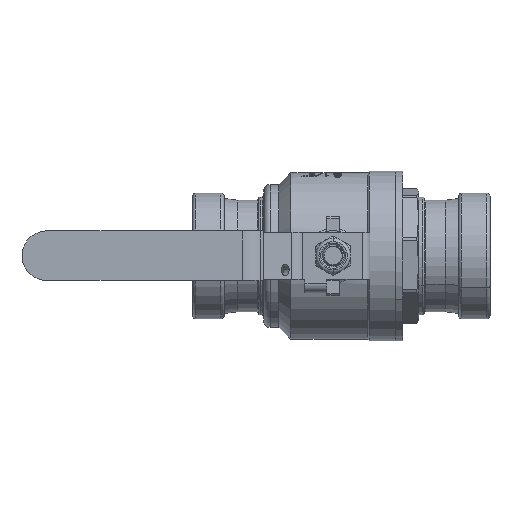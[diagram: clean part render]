
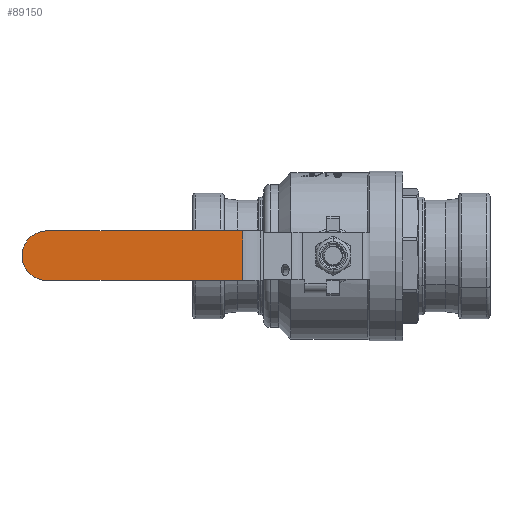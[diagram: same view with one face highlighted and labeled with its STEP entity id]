
A CAD part, top view. The second image highlights one B-rep face of the part: STEP entity #89150.
In plain terms, the highlighted planar face has unit normal (0, 0, 1).
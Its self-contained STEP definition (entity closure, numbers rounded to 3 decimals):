
#89150 = ADVANCED_FACE('',(#89151),#89166,.T.);
#89151 = FACE_BOUND('',#89152,.T.);
#89152 = EDGE_LOOP('',(#89153,#89189,#89218,#89246,#89274));
#89153 = ORIENTED_EDGE('',*,*,#89154,.T.);
#89154 = EDGE_CURVE('',#89155,#89157,#89159,.T.);
#89155 = VERTEX_POINT('',#89156);
#89156 = CARTESIAN_POINT('',(-182.5,-29.962,125.798));
#89157 = VERTEX_POINT('',#89158);
#89158 = CARTESIAN_POINT('',(-198.3,-45.762,125.798));
#89159 = SURFACE_CURVE('',#89160,(#89165,#89177),.PCURVE_S1.);
#89160 = CIRCLE('',#89161,15.8);
#89161 = AXIS2_PLACEMENT_3D('',#89162,#89163,#89164);
#89162 = CARTESIAN_POINT('',(-182.5,-45.762,125.798));
#89163 = DIRECTION('',(0.,0.,1.));
#89164 = DIRECTION('',(0.,1.,0.));
#89165 = PCURVE('',#89166,#89171);
#89166 = PLANE('',#89167);
#89167 = AXIS2_PLACEMENT_3D('',#89168,#89169,#89170);
#89168 = CARTESIAN_POINT('',(0.,-29.962,
    125.798));
#89169 = DIRECTION('',(0.,0.,1.));
#89170 = DIRECTION('',(0.,1.,0.));
#89171 = DEFINITIONAL_REPRESENTATION('',(#89172),#89176);
#89172 = CIRCLE('',#89173,15.8);
#89173 = AXIS2_PLACEMENT_2D('',#89174,#89175);
#89174 = CARTESIAN_POINT('',(-15.8,182.5));
#89175 = DIRECTION('',(1.,0.));
#89176 = ( GEOMETRIC_REPRESENTATION_CONTEXT(2) 
PARAMETRIC_REPRESENTATION_CONTEXT() REPRESENTATION_CONTEXT('2D SPACE',''
  ) );
#89177 = PCURVE('',#89178,#89183);
#89178 = CYLINDRICAL_SURFACE('',#89179,15.8);
#89179 = AXIS2_PLACEMENT_3D('',#89180,#89181,#89182);
#89180 = CARTESIAN_POINT('',(-182.5,-45.762,91.998));
#89181 = DIRECTION('',(0.,0.,-1.));
#89182 = DIRECTION('',(0.,-1.,0.));
#89183 = DEFINITIONAL_REPRESENTATION('',(#89184),#89188);
#89184 = LINE('',#89185,#89186);
#89185 = CARTESIAN_POINT('',(3.142,-33.8));
#89186 = VECTOR('',#89187,1.);
#89187 = DIRECTION('',(-1.,0.));
#89188 = ( GEOMETRIC_REPRESENTATION_CONTEXT(2) 
PARAMETRIC_REPRESENTATION_CONTEXT() REPRESENTATION_CONTEXT('2D SPACE',''
  ) );
#89189 = ORIENTED_EDGE('',*,*,#89190,.T.);
#89190 = EDGE_CURVE('',#89157,#89191,#89193,.T.);
#89191 = VERTEX_POINT('',#89192);
#89192 = CARTESIAN_POINT('',(-182.5,-61.562,125.798));
#89193 = SURFACE_CURVE('',#89194,(#89199,#89206),.PCURVE_S1.);
#89194 = CIRCLE('',#89195,15.8);
#89195 = AXIS2_PLACEMENT_3D('',#89196,#89197,#89198);
#89196 = CARTESIAN_POINT('',(-182.5,-45.762,125.798));
#89197 = DIRECTION('',(0.,0.,1.));
#89198 = DIRECTION('',(0.,1.,0.));
#89199 = PCURVE('',#89166,#89200);
#89200 = DEFINITIONAL_REPRESENTATION('',(#89201),#89205);
#89201 = CIRCLE('',#89202,15.8);
#89202 = AXIS2_PLACEMENT_2D('',#89203,#89204);
#89203 = CARTESIAN_POINT('',(-15.8,182.5));
#89204 = DIRECTION('',(1.,0.));
#89205 = ( GEOMETRIC_REPRESENTATION_CONTEXT(2) 
PARAMETRIC_REPRESENTATION_CONTEXT() REPRESENTATION_CONTEXT('2D SPACE',''
  ) );
#89206 = PCURVE('',#89207,#89212);
#89207 = CYLINDRICAL_SURFACE('',#89208,15.8);
#89208 = AXIS2_PLACEMENT_3D('',#89209,#89210,#89211);
#89209 = CARTESIAN_POINT('',(-182.5,-45.762,91.998));
#89210 = DIRECTION('',(0.,0.,1.));
#89211 = DIRECTION('',(0.,1.,0.));
#89212 = DEFINITIONAL_REPRESENTATION('',(#89213),#89217);
#89213 = LINE('',#89214,#89215);
#89214 = CARTESIAN_POINT('',(0.,33.8));
#89215 = VECTOR('',#89216,1.);
#89216 = DIRECTION('',(1.,0.));
#89217 = ( GEOMETRIC_REPRESENTATION_CONTEXT(2) 
PARAMETRIC_REPRESENTATION_CONTEXT() REPRESENTATION_CONTEXT('2D SPACE',''
  ) );
#89218 = ORIENTED_EDGE('',*,*,#89219,.F.);
#89219 = EDGE_CURVE('',#89220,#89191,#89222,.T.);
#89220 = VERTEX_POINT('',#89221);
#89221 = CARTESIAN_POINT('',(-57.713,-61.562,
    125.798));
#89222 = SURFACE_CURVE('',#89223,(#89227,#89234),.PCURVE_S1.);
#89223 = LINE('',#89224,#89225);
#89224 = CARTESIAN_POINT('',(0.,-61.562,
    125.798));
#89225 = VECTOR('',#89226,1.);
#89226 = DIRECTION('',(-1.,0.,0.));
#89227 = PCURVE('',#89166,#89228);
#89228 = DEFINITIONAL_REPRESENTATION('',(#89229),#89233);
#89229 = LINE('',#89230,#89231);
#89230 = CARTESIAN_POINT('',(-31.6,0.));
#89231 = VECTOR('',#89232,1.);
#89232 = DIRECTION('',(0.,1.));
#89233 = ( GEOMETRIC_REPRESENTATION_CONTEXT(2) 
PARAMETRIC_REPRESENTATION_CONTEXT() REPRESENTATION_CONTEXT('2D SPACE',''
  ) );
#89234 = PCURVE('',#89235,#89240);
#89235 = PLANE('',#89236);
#89236 = AXIS2_PLACEMENT_3D('',#89237,#89238,#89239);
#89237 = CARTESIAN_POINT('',(0.,-61.562,
    91.998));
#89238 = DIRECTION('',(0.,1.,0.));
#89239 = DIRECTION('',(-1.,0.,0.));
#89240 = DEFINITIONAL_REPRESENTATION('',(#89241),#89245);
#89241 = LINE('',#89242,#89243);
#89242 = CARTESIAN_POINT('',(0.,33.8));
#89243 = VECTOR('',#89244,1.);
#89244 = DIRECTION('',(1.,0.));
#89245 = ( GEOMETRIC_REPRESENTATION_CONTEXT(2) 
PARAMETRIC_REPRESENTATION_CONTEXT() REPRESENTATION_CONTEXT('2D SPACE',''
  ) );
#89246 = ORIENTED_EDGE('',*,*,#89247,.F.);
#89247 = EDGE_CURVE('',#89248,#89220,#89250,.T.);
#89248 = VERTEX_POINT('',#89249);
#89249 = CARTESIAN_POINT('',(-57.713,-29.962,
    125.798));
#89250 = SURFACE_CURVE('',#89251,(#89255,#89262),.PCURVE_S1.);
#89251 = LINE('',#89252,#89253);
#89252 = CARTESIAN_POINT('',(-57.713,-29.962,
    125.798));
#89253 = VECTOR('',#89254,1.);
#89254 = DIRECTION('',(0.,-1.,0.));
#89255 = PCURVE('',#89166,#89256);
#89256 = DEFINITIONAL_REPRESENTATION('',(#89257),#89261);
#89257 = LINE('',#89258,#89259);
#89258 = CARTESIAN_POINT('',(0.,57.713));
#89259 = VECTOR('',#89260,1.);
#89260 = DIRECTION('',(-1.,0.));
#89261 = ( GEOMETRIC_REPRESENTATION_CONTEXT(2) 
PARAMETRIC_REPRESENTATION_CONTEXT() REPRESENTATION_CONTEXT('2D SPACE',''
  ) );
#89262 = PCURVE('',#89263,#89268);
#89263 = CYLINDRICAL_SURFACE('',#89264,15.8);
#89264 = AXIS2_PLACEMENT_3D('',#89265,#89266,#89267);
#89265 = CARTESIAN_POINT('',(-57.713,-29.962,
    109.998));
#89266 = DIRECTION('',(0.,-1.,0.));
#89267 = DIRECTION('',(1.,0.,0.));
#89268 = DEFINITIONAL_REPRESENTATION('',(#89269),#89273);
#89269 = LINE('',#89270,#89271);
#89270 = CARTESIAN_POINT('',(1.571,0.));
#89271 = VECTOR('',#89272,1.);
#89272 = DIRECTION('',(0.,1.));
#89273 = ( GEOMETRIC_REPRESENTATION_CONTEXT(2) 
PARAMETRIC_REPRESENTATION_CONTEXT() REPRESENTATION_CONTEXT('2D SPACE',''
  ) );
#89274 = ORIENTED_EDGE('',*,*,#89275,.T.);
#89275 = EDGE_CURVE('',#89248,#89155,#89276,.T.);
#89276 = SURFACE_CURVE('',#89277,(#89281,#89288),.PCURVE_S1.);
#89277 = LINE('',#89278,#89279);
#89278 = CARTESIAN_POINT('',(0.,-29.962,
    125.798));
#89279 = VECTOR('',#89280,1.);
#89280 = DIRECTION('',(-1.,0.,0.));
#89281 = PCURVE('',#89166,#89282);
#89282 = DEFINITIONAL_REPRESENTATION('',(#89283),#89287);
#89283 = LINE('',#89284,#89285);
#89284 = CARTESIAN_POINT('',(0.,0.));
#89285 = VECTOR('',#89286,1.);
#89286 = DIRECTION('',(0.,1.));
#89287 = ( GEOMETRIC_REPRESENTATION_CONTEXT(2) 
PARAMETRIC_REPRESENTATION_CONTEXT() REPRESENTATION_CONTEXT('2D SPACE',''
  ) );
#89288 = PCURVE('',#89289,#89294);
#89289 = PLANE('',#89290);
#89290 = AXIS2_PLACEMENT_3D('',#89291,#89292,#89293);
#89291 = CARTESIAN_POINT('',(0.,-29.962,
    91.998));
#89292 = DIRECTION('',(0.,1.,0.));
#89293 = DIRECTION('',(-1.,0.,0.));
#89294 = DEFINITIONAL_REPRESENTATION('',(#89295),#89299);
#89295 = LINE('',#89296,#89297);
#89296 = CARTESIAN_POINT('',(0.,33.8));
#89297 = VECTOR('',#89298,1.);
#89298 = DIRECTION('',(1.,0.));
#89299 = ( GEOMETRIC_REPRESENTATION_CONTEXT(2) 
PARAMETRIC_REPRESENTATION_CONTEXT() REPRESENTATION_CONTEXT('2D SPACE',''
  ) );
